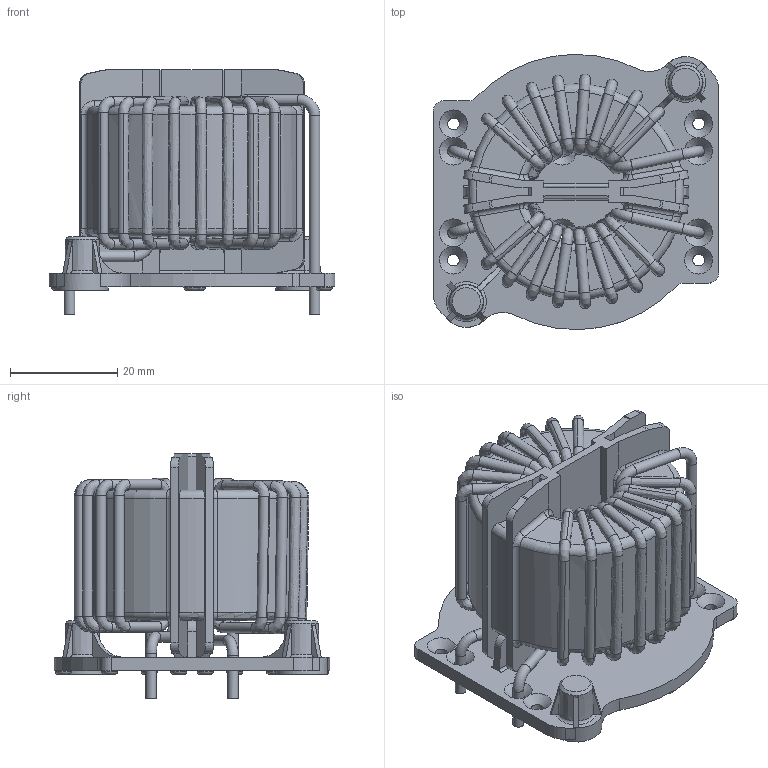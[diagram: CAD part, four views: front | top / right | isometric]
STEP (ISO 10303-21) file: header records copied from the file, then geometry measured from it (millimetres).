
FILE_DESCRIPTION((''),'2;1');
FILE_NAME('K:\Development\Projects\RB\Angel_standard choke series 2011\70_Realization_Revision\702_MechanicalDesign\RB6122-16-1M0 for customer_包覆面提取_2.stp','2012-10-19T15:13:16',('Fiona.chen'),(''),'Autodesk Inventor 2010','Autodesk Inventor 2010','');
FILE_SCHEMA(('AUTOMOTIVE_DESIGN { 1 0 10303 214 1 1 1 1 }'));
Length unit declared in the file: millimetre
Products named in the file (1): RB6122-16-1M0 for customer_包覆面提取_2
Bounding box: 53.3 x 51.33 x 45.63 mm (x, y, z)
Surface area: 24784.3 mm2 (no closed solid volume)
Topology: 0 solids, 1 shells, 793 faces, 2297 edges, 1513 vertices
Faces by surface type: plane 339, bspline 236, cylinder 138, torus 50, cone 30
Full cylindrical faces by diameter (mm): 2 x8, 2.2 x10, 3 x8, 9.6 x2
Entity records: 30893 total; most frequent: CARTESIAN_POINT 10747, ORIENTED_EDGE 4370, DIRECTION 3962, EDGE_CURVE 2185, AXIS2_PLACEMENT_3D 1501, VERTEX_POINT 1472, VECTOR 960, LINE 960
